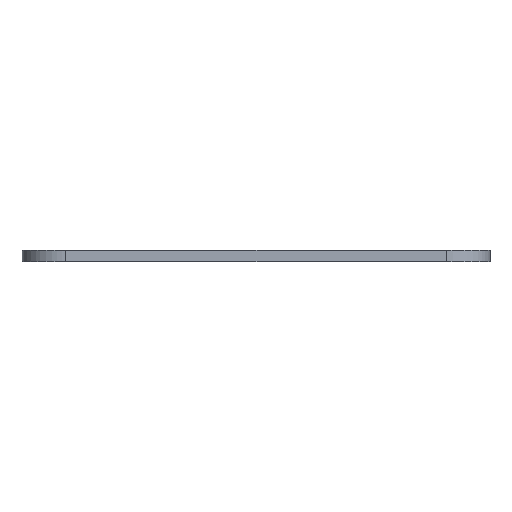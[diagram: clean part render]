
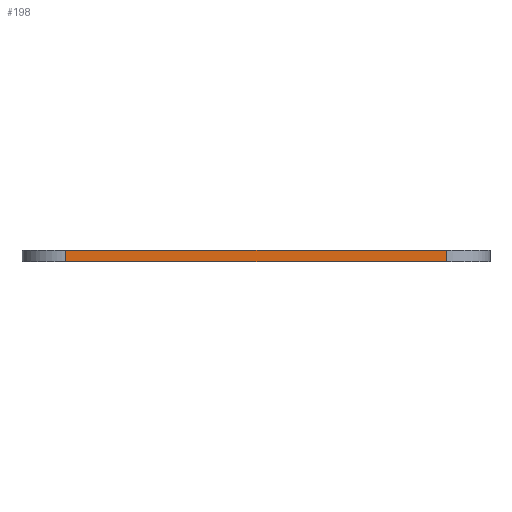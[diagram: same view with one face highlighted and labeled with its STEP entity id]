
A CAD part, left-side view. The second image highlights one B-rep face of the part: STEP entity #198.
In plain terms, the highlighted planar face has unit normal (-1, 0, 0).
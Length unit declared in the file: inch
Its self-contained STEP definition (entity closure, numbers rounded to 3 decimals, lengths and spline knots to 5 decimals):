
#59 = VERTEX_POINT ( 'NONE', #850 ) ;
#86 = DIRECTION ( 'NONE',  ( 0., -1., 0. ) ) ;
#157 = EDGE_CURVE ( 'NONE', #624, #59, #527, .T. ) ;
#173 = CARTESIAN_POINT ( 'NONE',  ( -1.04331, -0.85889, 0.05 ) ) ;
#193 = LINE ( 'NONE', #888, #387 ) ;
#195 = EDGE_CURVE ( 'NONE', #259, #647, #889, .T. ) ;
#198 = ADVANCED_FACE ( 'NONE', ( #366 ), #380, .F. ) ;
#241 = DIRECTION ( 'NONE',  ( 0., 0., -1. ) ) ;
#259 = VERTEX_POINT ( 'NONE', #756 ) ;
#294 = ORIENTED_EDGE ( 'NONE', *, *, #157, .T. ) ;
#302 = DIRECTION ( 'NONE',  ( 0., 0., -1. ) ) ;
#308 = CARTESIAN_POINT ( 'NONE',  ( -1.04331, 0.85889, 0.05 ) ) ;
#321 = DIRECTION ( 'NONE',  ( 0., 0., -1. ) ) ;
#346 = CARTESIAN_POINT ( 'NONE',  ( -1.04331, -0.64931, 0. ) ) ;
#366 = FACE_OUTER_BOUND ( 'NONE', #746, .T. ) ;
#380 = PLANE ( 'NONE',  #564 ) ;
#387 = VECTOR ( 'NONE', #86, 39.37008 ) ;
#410 = ORIENTED_EDGE ( 'NONE', *, *, #673, .F. ) ;
#412 = LINE ( 'NONE', #346, #743 ) ;
#418 = EDGE_CURVE ( 'NONE', #59, #647, #412, .T. ) ;
#498 = CARTESIAN_POINT ( 'NONE',  ( -1.04331, -0.85889, 0. ) ) ;
#527 = LINE ( 'NONE', #593, #695 ) ;
#564 = AXIS2_PLACEMENT_3D ( 'NONE', #715, #582, #241 ) ;
#582 = DIRECTION ( 'NONE',  ( 1., 0., 0. ) ) ;
#593 = CARTESIAN_POINT ( 'NONE',  ( -1.04331, 0.85889, 0.05 ) ) ;
#624 = VERTEX_POINT ( 'NONE', #308 ) ;
#638 = VECTOR ( 'NONE', #321, 39.37008 ) ;
#647 = VERTEX_POINT ( 'NONE', #498 ) ;
#673 = EDGE_CURVE ( 'NONE', #624, #259, #193, .T. ) ;
#695 = VECTOR ( 'NONE', #302, 39.37008 ) ;
#703 = DIRECTION ( 'NONE',  ( 0., -1., 0. ) ) ;
#715 = CARTESIAN_POINT ( 'NONE',  ( -1.04331, -0.64931, 0.05 ) ) ;
#739 = ORIENTED_EDGE ( 'NONE', *, *, #418, .T. ) ;
#743 = VECTOR ( 'NONE', #703, 39.37008 ) ;
#746 = EDGE_LOOP ( 'NONE', ( #739, #848, #410, #294 ) ) ;
#756 = CARTESIAN_POINT ( 'NONE',  ( -1.04331, -0.85889, 0.05 ) ) ;
#848 = ORIENTED_EDGE ( 'NONE', *, *, #195, .F. ) ;
#850 = CARTESIAN_POINT ( 'NONE',  ( -1.04331, 0.85889, 0. ) ) ;
#888 = CARTESIAN_POINT ( 'NONE',  ( -1.04331, 0.85889, 0.05 ) ) ;
#889 = LINE ( 'NONE', #173, #638 ) ;
